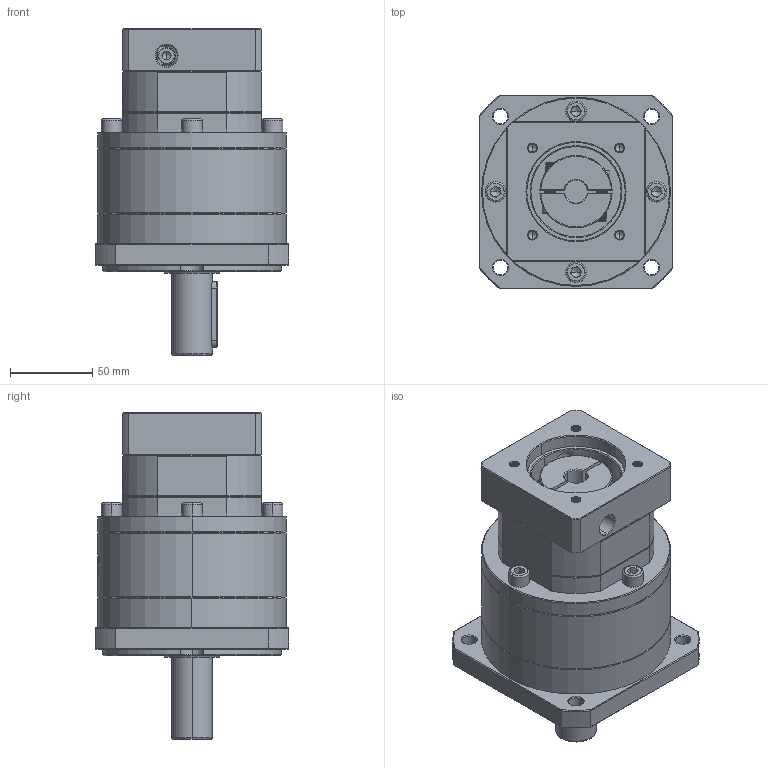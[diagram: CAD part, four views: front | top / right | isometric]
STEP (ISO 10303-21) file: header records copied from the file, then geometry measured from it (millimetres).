
FILE_DESCRIPTION (( 'STEP AP214' ), '1' );
FILE_NAME ('ZF120A-D25-L2-P2-14-60-75-M6.step', '2023-08-27T05:57:03', ( '' ), ( '' ), 'SwSTEP 2.0', 'SolidWorks 2016', '' );
FILE_SCHEMA (( 'AUTOMOTIVE_DESIGN' ));
Length unit declared in the file: millimetre
Products named in the file (1): ZF120A-D25-L2-P2-14-60-75-M6
Bounding box: 118 x 118 x 199 mm (x, y, z)
Volume: 1286764.6 mm3; surface area: 127389 mm2
Topology: 5 solids, 6 shells, 2220 faces, 5885 edges, 3764 vertices
Faces by surface type: plane 1060, bspline 419, cylinder 406, cone 320, torus 15
Entity records: 121229 total; most frequent: CARTESIAN_POINT 47214, ORIENTED_EDGE 11710, DIRECTION 8448, EDGE_CURVE 5855, VERTEX_POINT 3764, VECTOR 3098, LINE 3098, AXIS2_PLACEMENT_3D 2675
